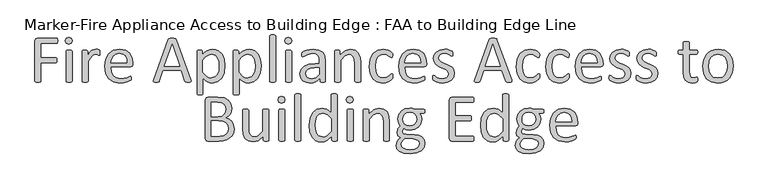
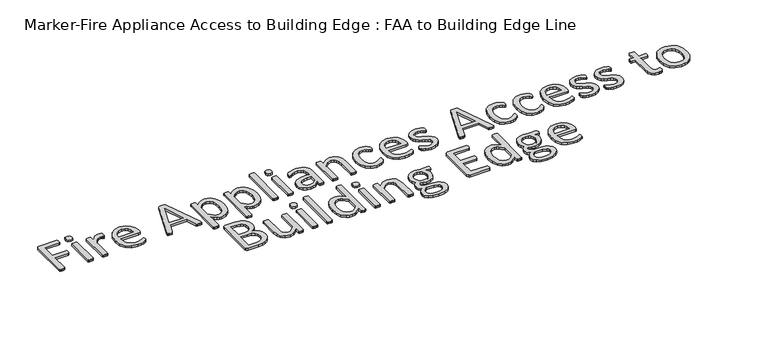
"""IFC4 building model written with IfcOpenShell, lengths in millimetres: proxy geometry, Marker-Fire Appliance Access to Building Edge : FAA to Building Edge Line."""

from ifc_helpers import new_model, si_unit, origin, origin_with_axes, place, context, project, spatial, polyline, outline, extrude, source, transform, mapped, element, save


def marker_fire_appliance_access_to_building_edge_faa_to_9c28d8f7(model_context):
    return source(origin(), model_context, "Body", "SweptSolid", [
        extrude(outline(polyline([(2879.0974459, 236.2082635), (2878.795871, 230.9910177), (2877.7403589, 227.4324338), (2875.9912244, 225.4420395), (2873.9103576, 224.8087322), (2801.8942706, 224.8087322), (2801.8942706, 159.1860331), (2869.9295689, 159.1860331), (2872.0104357, 158.6130408), (2873.7595701, 156.7432764), (2874.8150823, 153.275165), (2875.1166572, 147.6658718), (2874.8150823, 142.4184685), (2873.7595701, 138.8598846), (2872.0104357, 136.7488603), (2869.9295689, 136.0250805), (2801.8942706, 136.0250805), (2801.8942706, 52.1872573), (2801.2609633, 50.1063905), (2799.0594665, 48.5683585), (2794.9882053, 47.6334763), (2788.3837149, 47.2414289), (2781.930012, 47.6334763), (2777.7079633, 48.5683585), (2775.5064665, 50.1063905), (2774.8731592, 52.1872573), (2774.8731592, 237.1733032), (2778.0095382, 245.587243), (2784.7045011, 247.9696848), (2873.9103576, 247.9696848), (2875.9309094, 247.3363775), (2877.7102014, 245.2856681), (2878.795871, 241.5461393), (2879.0974459, 236.2082635)])), origin_with_axes(), (0.0, 0.0, 1.0), 10.0),
        extrude(outline(polyline([(2944.720145, 236.5701534), (2941.402821, 224.2357399), (2929.098565, 220.9485734), (2917.0958838, 224.1452674), (2913.8388748, 236.2082635), (2917.1561988, 248.5426771), (2929.4604548, 251.8298435), (2941.463136, 248.6331496), (2944.720145, 236.5701534)])), origin_with_axes(), (0.0, 0.0, 1.0), 10.0),
        extrude(outline(polyline([(2944.720145, 51.9459974), (2944.0566802, 49.8952881), (2941.9154984, 48.4477285), (2937.8442372, 47.5430038), (2931.1492743, 47.2414289), (2924.5749414, 47.5430038), (2920.4132077, 48.4477285), (2918.2720259, 49.8952881), (2917.6990336, 51.9459974), (2917.6990336, 189.2228935), (2918.2720259, 191.1831304), (2920.4132077, 192.7211624), (2924.5749414, 193.6258871), (2931.1492743, 193.927462), (2937.8442372, 193.6258871), (2941.9154984, 192.7211624), (2944.0566802, 191.1831304), (2944.720145, 189.2228935), (2944.720145, 51.9459974)])), origin_with_axes(), (0.0, 0.0, 1.0), 10.0),
        extrude(outline(polyline([(3072.1053843, 182.3469857), (3071.9545968, 176.8583225), (3071.351447, 173.2997386), (3070.2356199, 171.2791868), (3068.3658555, 170.5855645), (3065.4405789, 171.2791868), (3061.5502626, 172.6664313), (3056.6949067, 173.9933609), (3050.874511, 174.6266682), (3043.5160834, 172.9680062), (3035.9465533, 167.539658), (3027.6532435, 157.5273712), (3018.0631615, 142.2375235), (3018.0631615, 51.9459974), (3017.3996967, 49.8952881), (3015.2585149, 48.4477285), (3011.1872537, 47.5430038), (3004.4922909, 47.2414289), (2997.917958, 47.5430038), (2993.7562243, 48.4477285), (2991.6150425, 49.8952881), (2991.0420502, 51.9459974), (2991.0420502, 189.2228935), (2991.52457, 191.2736029), (2993.4848069, 192.7814774), (2997.2544932, 193.6862021), (3003.3463062, 193.927462), (3009.3174893, 193.6862021), (3012.9967031, 192.7814774), (3014.896625, 191.2736029), (3015.4696174, 189.2228935), (3015.4696174, 169.1983199), (3025.904109, 183.4929704), (3035.1624586, 192.2084851), (3043.7875008, 196.5813212), (3052.4427005, 197.7876208), (3056.8456941, 197.5765184), (3062.0327825, 196.7622661), (3066.9182959, 195.4051791), (3069.9943599, 193.927462), (3071.2006596, 192.5402175), (3071.7434944, 190.8212405), (3072.0450693, 187.775334), (3072.1053843, 182.3469857)])), origin_with_axes(), (0.0, 0.0, 1.0), 10.0),
        extrude(outline(polyline([(3222.6515762, 127.7619282), (3219.6659846, 119.2575159), (3212.8202343, 116.7242867), (3122.2874482, 116.7242867), (3124.54926, 94.4077438), (3132.0584751, 77.3989193), (3145.7499757, 66.4819078), (3166.3776991, 62.682064), (3183.5071537, 64.4613559), (3196.5351895, 68.4723021), (3205.5522791, 72.4832483), (3210.8901549, 74.2625403), (3212.7599193, 73.7498629), (3214.0566914, 72.2419884), (3214.7201562, 69.4373418), (3214.9312586, 65.0343482), (3214.7804712, 61.8074967), (3214.3884238, 59.36474), (3213.6344865, 57.4045032), (3212.2773995, 55.7458412), (3207.3617285, 52.8205646), (3196.7764494, 48.6588309), (3181.6977042, 45.0097746), (3163.4222651, 43.3812701), (3133.958397, 48.2064686), (3112.6973663, 62.561434), (3099.6693305, 86.4763239), (3095.2663369, 119.8606657), (3099.8804329, 152.4307553), (3113.1798861, 176.9186375), (3134.1694994, 192.38943), (3161.7334456, 197.7876208), (3189.4783368, 192.570375), (3208.3267682, 178.5169845), (3219.1834648, 157.7987886), (3222.6515762, 132.4061817), (3222.6515762, 127.7619282)]), holes=[polyline([(3195.6304648, 136.0250805), (3193.6777673, 153.7350668), (3186.9752651, 167.1777681), (3175.6888243, 175.6595622), (3159.9843112, 178.486827), (3143.9103688, 174.9885581), (3132.36005, 165.6698936), (3125.1524098, 152.1291804), (3122.2874482, 136.0250805), (3195.6304648, 136.0250805)])]), origin_with_axes(), (0.0, 0.0, 1.0), 10.0),
        extrude(outline(polyline([(3487.7962314, 57.6759206), (3489.0930035, 52.1872573), (3487.9470189, 48.9604059), (3483.8456002, 47.5430038), (3476.2157551, 47.2414289), (3468.5255951, 47.4826888), (3464.213074, 48.2667836), (3462.0718922, 49.7445006), (3460.7148051, 52.0666274), (3443.5853506, 101.2836516), (3360.4109921, 101.2836516), (3344.0656324, 52.7300921), (3342.7990178, 50.3174929), (3340.5673635, 48.5683585), (3336.4056298, 47.5430038), (3329.3487771, 47.2414289), (3322.0205069, 47.6334763), (3318.0095607, 49.1111933), (3316.923891, 52.3078873), (3318.2508206, 57.7965505), (3385.3210792, 242.4810215), (3386.9194262, 245.2253531), (3389.8748602, 246.8840151), (3394.8206887, 247.7284248), (3402.4505337, 247.9696848), (3410.6533711, 247.7284248), (3415.9309319, 246.8840151), (3419.0069959, 245.1650382), (3420.7259729, 242.3603916), (3487.7962314, 57.6759206)]), holes=[polyline([(3401.7267539, 220.9485734), (3367.105955, 120.5844455), (3436.6491278, 120.5844455), (3401.7267539, 220.9485734)])]), origin_with_axes(), (0.0, 0.0, 1.0), 10.0),
        extrude(outline(polyline([(3643.4088817, 122.6954698), (3639.548723, 89.6127029), (3628.2095066, 64.7026158), (3609.66265, 48.9302484), (3584.3605156, 43.3812701), (3573.1720867, 44.6177272), (3563.0994849, 48.538201), (3553.328458, 55.2633213), (3543.0447538, 64.7930883), (3543.0447538, -5.6548092), (3542.381289, -7.856306), (3540.2401072, -9.4244955), (3536.168846, -10.3593777), (3529.4738831, -10.6609526), (3522.8995502, -10.3593777), (3518.7378166, -9.4244955), (3516.5966347, -7.856306), (3516.0236424, -5.7151242), (3516.0236424, 189.1022636), (3516.5061623, 191.3640754), (3518.4663991, 192.8417924), (3522.2360854, 193.6862021), (3527.8453787, 193.927462), (3533.4848294, 193.7163596), (3537.1640432, 192.9322649), (3539.2147525, 191.5450203), (3539.7877448, 189.4038385), (3539.7877448, 171.8521791), (3551.7602685, 183.2517104), (3563.3709023, 191.3037604), (3575.3735835, 196.1591163), (3588.3413043, 197.7876208), (3602.0931199, 196.3023644), (3613.6735962, 191.8465952), (3630.7427358, 175.6218654), (3640.3629752, 151.676818), (3643.4088817, 122.6954698)]), holes=[polyline([(3616.3877704, 119.7400357), (3614.8195809, 140.1868142), (3609.4213901, 157.7384736), (3599.1376859, 170.0125722), (3583.093901, 174.6266682), (3573.624449, 173.2092662), (3564.1851545, 168.6856426), (3554.1427103, 160.5431202), (3543.0447538, 148.1483917), (3543.0447538, 92.2364045), (3562.3757051, 73.1467131), (3571.7471453, 68.1933453), (3581.5860265, 66.5422227), (3597.5694964, 71.1563188), (3608.3658779, 83.4304173), (3614.4275335, 100.5900294), (3616.3877704, 119.7400357)])]), origin_with_axes(), (0.0, 0.0, 1.0), 10.0),
        extrude(outline(polyline([(3809.3957087, 122.6954698), (3805.5355499, 89.6127029), (3794.1963336, 64.7026158), (3775.649477, 48.9302484), (3750.3473426, 43.3812701), (3739.1589136, 44.6177272), (3729.0863119, 48.538201), (3719.315285, 55.2633213), (3709.0315808, 64.7930883), (3709.0315808, -5.6548092), (3708.368116, -7.856306), (3706.2269342, -9.4244955), (3702.155673, -10.3593777), (3695.4607101, -10.6609526), (3688.8863772, -10.3593777), (3684.7246435, -9.4244955), (3682.5834617, -7.856306), (3682.0104694, -5.7151242), (3682.0104694, 189.1022636), (3682.4929892, 191.3640754), (3684.4532261, 192.8417924), (3688.2229124, 193.6862021), (3693.8322056, 193.927462), (3699.4716563, 193.7163596), (3703.1508701, 192.9322649), (3705.2015795, 191.5450203), (3705.7745718, 189.4038385), (3705.7745718, 171.8521791), (3717.7470955, 183.2517104), (3729.3577293, 191.3037604), (3741.3604104, 196.1591163), (3754.3281313, 197.7876208), (3768.0799469, 196.3023644), (3779.6604232, 191.8465952), (3796.7295627, 175.6218654), (3806.3498022, 151.676818), (3809.3957087, 122.6954698)]), holes=[polyline([(3782.3745973, 119.7400357), (3780.8064078, 140.1868142), (3775.4082171, 157.7384736), (3765.1245128, 170.0125722), (3749.080728, 174.6266682), (3739.611276, 173.2092662), (3730.1719815, 168.6856426), (3720.1295372, 160.5431202), (3709.0315808, 148.1483917), (3709.0315808, 92.2364045), (3728.3625321, 73.1467131), (3737.7339722, 68.1933453), (3747.5728535, 66.5422227), (3763.5563233, 71.1563188), (3774.3527049, 83.4304173), (3780.4143605, 100.5900294), (3782.3745973, 119.7400357)])]), origin_with_axes(), (0.0, 0.0, 1.0), 10.0),
        extrude(outline(polyline([(3875.0184077, 52.0063124), (3874.3549429, 49.955603), (3872.2137611, 48.477886), (3868.1424999, 47.5430038), (3861.4475371, 47.2414289), (3854.8732042, 47.5430038), (3850.7114705, 48.477886), (3848.5702887, 49.955603), (3847.9972964, 52.0063124), (3847.9972964, 258.4644914), (3848.5702887, 260.6358307), (3850.7114705, 262.1738627), (3854.8732042, 263.1087449), (3861.4475371, 263.4103198), (3868.1424999, 263.1087449), (3872.2137611, 262.1738627), (3874.3549429, 260.6358307), (3875.0184077, 258.4644914), (3875.0184077, 52.0063124)])), origin_with_axes(), (0.0, 0.0, 1.0), 10.0),
        extrude(outline(polyline([(3948.3614243, 236.5701534), (3945.0441004, 224.2357399), (3932.7398443, 220.9485734), (3920.7371631, 224.1452674), (3917.4801542, 236.2082635), (3920.7974781, 248.5426771), (3933.1017342, 251.8298435), (3945.1044153, 248.6331496), (3948.3614243, 236.5701534)])), origin_with_axes(), (0.0, 0.0, 1.0), 10.0),
        extrude(outline(polyline([(3948.3614243, 51.9459974), (3947.6979595, 49.8952881), (3945.5567777, 48.4477285), (3941.4855165, 47.5430038), (3934.7905536, 47.2414289), (3928.2162207, 47.5430038), (3924.0544871, 48.4477285), (3921.9133052, 49.8952881), (3921.3403129, 51.9459974), (3921.3403129, 189.2228935), (3921.9133052, 191.1831304), (3924.0544871, 192.7211624), (3928.2162207, 193.6258871), (3934.7905536, 193.927462), (3941.4855165, 193.6258871), (3945.5567777, 192.7211624), (3947.6979595, 191.1831304), (3948.3614243, 189.2228935), (3948.3614243, 51.9459974)])), origin_with_axes(), (0.0, 0.0, 1.0), 10.0),
        extrude(outline(polyline([(4102.767775, 51.8856824), (4101.4408454, 49.0810358), (4097.8219465, 47.6937913), (4091.0666687, 47.2414289), (4084.2209184, 47.6937913), (4080.5115471, 49.0810358), (4079.3655624, 51.8856824), (4079.3655624, 65.758128), (4059.0394139, 49.7143431), (4047.4890951, 44.9645384), (4035.2753115, 43.3812701), (4015.3412104, 46.2462317), (4000.1719927, 54.5395416), (3990.4311234, 67.8691523), (3986.963012, 85.8430166), (3991.7580529, 106.289795), (4005.5098685, 120.7050754), (4027.434364, 129.2999602), (4056.6268147, 132.1649218), (4075.7466636, 132.1649218), (4075.7466636, 143.6850831), (4074.0578441, 158.7638283), (4068.6294959, 169.6808398), (4058.9489415, 176.2551727), (4044.3225586, 178.486827), (4027.5851515, 176.0742277), (4014.6174306, 170.7665094), (4005.2987661, 165.4587911), (3999.7497879, 163.0461919), (3997.5784486, 163.6794992), (3995.9801016, 165.6095786), (3994.9849044, 168.9269025), (3994.6833295, 173.3600536), (3995.2261643, 179.6931266), (3997.8800235, 184.1262777), (4005.1178212, 188.6499012), (4016.9395574, 193.1132098), (4031.5659402, 196.4606912), (4047.5795676, 197.7876208), (4073.2134344, 194.3798244), (4090.3127314, 184.4278526), (4099.8123409, 168.1729653), (4102.767775, 145.4945325), (4102.767775, 51.8856824)]), holes=[polyline([(4075.7466636, 112.8641279), (4054.2745305, 112.8641279), (4036.3609812, 111.084836), (4023.7249927, 105.8374327), (4016.3364076, 97.5139653), (4013.9841233, 86.3255364), (4015.6729428, 76.584667), (4020.7394012, 69.0754519), (4028.8517661, 64.280411), (4039.6783051, 62.682064), (4058.0140593, 67.7786798), (4075.7466636, 83.3701024), (4075.7466636, 112.8641279)])]), origin_with_axes(), (0.0, 0.0, 1.0), 10.0),
        extrude(outline(polyline([(4264.8944432, 52.0063124), (4264.2309784, 49.955603), (4262.0897966, 48.477886), (4258.0185354, 47.5430038), (4251.4442025, 47.2414289), (4244.7492396, 47.5430038), (4240.6779784, 48.4477285), (4238.5367966, 49.8952881), (4237.8733318, 52.0063124), (4237.8733318, 132.5871266), (4236.0940399, 151.5260306), (4230.937109, 163.9207591), (4222.1612793, 171.8823366), (4209.7062358, 174.6266682), (4191.4006391, 167.9015478), (4172.2506328, 148.1483917), (4172.2506328, 52.0063124), (4171.587168, 49.8952881), (4169.4459862, 48.4477285), (4165.374725, 47.5430038), (4158.6797621, 47.2414289), (4152.1054292, 47.5430038), (4147.9436955, 48.4477285), (4145.8025137, 49.8952881), (4145.2295214, 51.9459974), (4145.2295214, 189.2228935), (4145.7120412, 191.2736029), (4147.6722781, 192.7814774), (4151.4419644, 193.6862021), (4157.5337775, 193.927462), (4163.5049606, 193.6862021), (4167.1841744, 192.7814774), (4169.0840963, 191.2736029), (4169.6570886, 189.2228935), (4169.6570886, 171.0680843), (4192.7275687, 191.3640754), (4215.9186788, 197.7876208), (4238.9590015, 193.0830523), (4254.0980616, 180.5073788), (4262.3913715, 162.0811522), (4264.8944432, 136.6885453), (4264.8944432, 52.0063124)])), origin_with_axes(), (0.0, 0.0, 1.0), 10.0),
        extrude(outline(polyline([(4411.5804763, 74.98632), (4411.4296888, 70.7642714), (4410.886854, 67.7485223), (4409.9821293, 65.3057656), (4407.5695301, 61.6868668), (4401.0856697, 55.8061562), (4390.8019654, 49.5635557), (4378.4072369, 45.1002471), (4364.5347913, 43.3812701), (4338.3580897, 48.3874135), (4319.2683983, 63.0137964), (4307.5371345, 86.5969538), (4303.4960308, 118.835311), (4308.4418593, 154.5719371), (4321.9825724, 179.0296618), (4342.2182485, 193.1735248), (4367.4299104, 197.7876208), (4380.1563713, 196.4305337), (4391.4955877, 192.8719499), (4400.7237798, 187.8054915), (4406.5743329, 182.8898206), (4409.0774046, 179.6629691), (4410.2233892, 177.0995824), (4410.826539, 173.9330459), (4410.9773265, 169.4998948), (4409.6202394, 161.4780024), (4406.333073, 159.1860331), (4401.1158271, 161.5986324), (4393.666927, 166.9063507), (4382.719758, 172.214069), (4367.6108553, 174.6266682), (4351.740476, 171.1283993), (4340.0770666, 160.6335927), (4332.9071233, 143.4739807), (4330.5171422, 119.9812957), (4332.9900564, 96.6393981), (4340.2881691, 79.8718335), (4352.1400628, 69.8293892), (4368.2140052, 66.5422227), (4383.2625928, 69.5881293), (4394.4811793, 76.2830921), (4402.4729142, 82.8875825), (4407.5393726, 85.8430166), (4409.3186645, 85.2700243), (4410.6154366, 83.3399449), (4411.3693739, 79.901991), (4411.5804763, 74.98632)])), origin_with_axes(), (0.0, 0.0, 1.0), 10.0),
        extrude(outline(polyline([(4565.986827, 127.7619282), (4563.0012354, 119.2575159), (4556.1554851, 116.7242867), (4465.622699, 116.7242867), (4467.8845108, 94.4077438), (4475.3937259, 77.3989193), (4489.0852265, 66.4819078), (4509.7129499, 62.682064), (4526.8424045, 64.4613559), (4539.8704403, 68.4723021), (4548.8875299, 72.4832483), (4554.2254057, 74.2625403), (4556.0951701, 73.7498629), (4557.3919422, 72.2419884), (4558.055407, 69.4373418), (4558.2665094, 65.0343482), (4558.115722, 61.8074967), (4557.7236746, 59.36474), (4556.9697373, 57.4045032), (4555.6126503, 55.7458412), (4550.6969794, 52.8205646), (4540.1117002, 48.6588309), (4525.0329551, 45.0097746), (4506.7575159, 43.3812701), (4477.2936478, 48.2064686), (4456.0326171, 62.561434), (4443.0045813, 86.4763239), (4438.6015877, 119.8606657), (4443.2156837, 152.4307553), (4456.5151369, 176.9186375), (4477.5047502, 192.38943), (4505.0686964, 197.7876208), (4532.8135876, 192.570375), (4551.662019, 178.5169845), (4562.5187156, 157.7987886), (4565.986827, 132.4061817), (4565.986827, 127.7619282)]), holes=[polyline([(4538.9657156, 136.0250805), (4537.0130181, 153.7350668), (4530.3105159, 167.1777681), (4519.0240751, 175.6595622), (4503.319562, 178.486827), (4487.2456196, 174.9885581), (4475.6953008, 165.6698936), (4468.4876606, 152.1291804), (4465.622699, 136.0250805), (4538.9657156, 136.0250805)])]), origin_with_axes(), (0.0, 0.0, 1.0), 10.0),
        extrude(outline(polyline([(4693.3720663, 88.4968757), (4689.36112, 69.2865544), (4677.9314312, 55.0823764), (4660.2892993, 46.3367042), (4637.761654, 43.3812701), (4623.3162162, 44.7685147), (4611.0421176, 48.2969411), (4601.844083, 52.7602496), (4596.3252623, 56.9521408), (4593.7920331, 61.3852919), (4593.0079383, 68.4119871), (4593.3095132, 72.9657682), (4594.093608, 75.9513597), (4595.4205376, 77.6100217), (4597.3506169, 78.122699), (4602.3567603, 75.7100998), (4610.5595977, 70.4023815), (4622.1099165, 65.0946632), (4637.3997642, 62.682064), (4649.1611854, 64.159781), (4658.298905, 68.5326171), (4664.2700881, 75.8910447), (4666.3509549, 86.4461664), (4663.3653634, 96.4282957), (4655.4339434, 103.6359359), (4644.3661444, 109.1849141), (4631.6999985, 114.2513725), (4618.94338, 120.2527131), (4607.7851086, 128.4555505), (4599.8536886, 140.0058693), (4596.8680971, 156.1099691), (4600.0647911, 171.9426516), (4609.654873, 185.2119473), (4625.6383429, 194.3496669), (4648.0755157, 197.7876208), (4659.2941022, 196.7622661), (4669.4270189, 194.168722), (4677.1473365, 190.791083), (4681.9725349, 187.5943891), (4684.1438742, 185.3024198), (4684.927969, 183.3120254), (4685.4104888, 180.5676938), (4685.6517487, 176.5567476), (4685.4104888, 172.1839115), (4684.6263941, 169.138005), (4683.269307, 167.419028), (4681.4900151, 166.9063507), (4677.3282814, 168.7459576), (4670.3015861, 172.6965888), (4660.1686694, 176.6472201), (4646.8692161, 178.486827), (4635.0474799, 176.948795), (4626.6636976, 172.5759589), (4621.7178692, 165.880996), (4620.0290497, 157.4972137), (4623.2257437, 147.2738244), (4631.5793685, 140.0058693), (4643.3106323, 134.3965761), (4656.700558, 129.2698027), (4670.1809562, 123.3287771), (4681.9725349, 115.3671996), (4690.2356873, 104.1184557), (4693.3720663, 88.4968757)])), origin_with_axes(), (0.0, 0.0, 1.0), 10.0),
        extrude(outline(polyline([(4954.6565628, 57.6759206), (4955.9533349, 52.1872573), (4954.8073502, 48.9604059), (4950.7059315, 47.5430038), (4943.0760865, 47.2414289), (4935.3859264, 47.4826888), (4931.0734053, 48.2667836), (4928.9322235, 49.7445006), (4927.5751364, 52.0666274), (4910.4456819, 101.2836516), (4827.2713235, 101.2836516), (4810.9259637, 52.7300921), (4809.6593491, 50.3174929), (4807.4276948, 48.5683585), (4803.2659612, 47.5430038), (4796.2091084, 47.2414289), (4788.8808383, 47.6334763), (4784.869892, 49.1111933), (4783.7842224, 52.3078873), (4785.111152, 57.7965505), (4852.1814105, 242.4810215), (4853.7797575, 245.2253531), (4856.7351916, 246.8840151), (4861.68102, 247.7284248), (4869.3108651, 247.9696848), (4877.5137024, 247.7284248), (4882.7912632, 246.8840151), (4885.8673273, 245.1650382), (4887.5863042, 242.3603916), (4954.6565628, 57.6759206)]), holes=[polyline([(4868.5870853, 220.9485734), (4833.9662863, 120.5844455), (4903.5094591, 120.5844455), (4868.5870853, 220.9485734)])]), origin_with_axes(), (0.0, 0.0, 1.0), 10.0),
        extrude(outline(polyline([(5083.2481017, 74.98632), (5083.0973143, 70.7642714), (5082.5544794, 67.7485223), (5081.6497547, 65.3057656), (5079.2371555, 61.6868668), (5072.7532951, 55.8061562), (5062.4695908, 49.5635557), (5050.0748623, 45.1002471), (5036.2024167, 43.3812701), (5010.0257151, 48.3874135), (4990.9360237, 63.0137964), (4979.2047599, 86.5969538), (4975.1636562, 118.835311), (4980.1094847, 154.5719371), (4993.6501978, 179.0296618), (5013.8858739, 193.1735248), (5039.0975358, 197.7876208), (5051.8239967, 196.4305337), (5063.1632131, 192.8719499), (5072.3914052, 187.8054915), (5078.2419583, 182.8898206), (5080.74503, 179.6629691), (5081.8910146, 177.0995824), (5082.4941644, 173.9330459), (5082.6449519, 169.4998948), (5081.2878648, 161.4780024), (5078.0006984, 159.1860331), (5072.7834525, 161.5986324), (5065.3345524, 166.9063507), (5054.3873834, 172.214069), (5039.2784808, 174.6266682), (5023.4081014, 171.1283993), (5011.744692, 160.6335927), (5004.5747487, 143.4739807), (5002.1847676, 119.9812957), (5004.6576818, 96.6393981), (5011.9557945, 79.8718335), (5023.8076882, 69.8293892), (5039.8816306, 66.5422227), (5054.9302183, 69.5881293), (5066.1488047, 76.2830921), (5074.1405396, 82.8875825), (5079.206998, 85.8430166), (5080.9862899, 85.2700243), (5082.283062, 83.3399449), (5083.0369993, 79.901991), (5083.2481017, 74.98632)])), origin_with_axes(), (0.0, 0.0, 1.0), 10.0),
        extrude(outline(polyline([(5623.670329, 88.4968757), (5619.6593828, 69.2865544), (5608.229694, 55.0823764), (5590.5875621, 46.3367042), (5568.0599168, 43.3812701), (5553.6144789, 44.7685147), (5541.3403803, 48.2969411), (5532.1423458, 52.7602496), (5526.623525, 56.9521408), (5524.0902959, 61.3852919), (5523.3062011, 68.4119871), (5523.607776, 72.9657682), (5524.3918708, 75.9513597), (5525.7188003, 77.6100217), (5527.6488797, 78.122699), (5532.6550231, 75.7100998), (5540.8578605, 70.4023815), (5552.4081793, 65.0946632), (5567.6980269, 62.682064), (5579.4594482, 64.159781), (5588.5971677, 68.5326171), (5594.5683508, 75.8910447), (5596.6492177, 86.4461664), (5593.6636261, 96.4282957), (5585.7322062, 103.6359359), (5574.6644072, 109.1849141), (5561.9982612, 114.2513725), (5549.2416428, 120.2527131), (5538.0833714, 128.4555505), (5530.1519514, 140.0058693), (5527.1663599, 156.1099691), (5530.3630538, 171.9426516), (5539.9531358, 185.2119473), (5555.9366057, 194.3496669), (5578.3737785, 197.7876208), (5589.5923649, 196.7622661), (5599.7252817, 194.168722), (5607.4455992, 190.791083), (5612.2707977, 187.5943891), (5614.442137, 185.3024198), (5615.2262317, 183.3120254), (5615.7087516, 180.5676938), (5615.9500115, 176.5567476), (5615.7087516, 172.1839115), (5614.9246568, 169.138005), (5613.5675698, 167.419028), (5611.7882778, 166.9063507), (5607.6265442, 168.7459576), (5600.5998489, 172.6965888), (5590.4669321, 176.6472201), (5577.1674789, 178.486827), (5565.3457427, 176.948795), (5556.9619604, 172.5759589), (5552.0161319, 165.880996), (5550.3273125, 157.4972137), (5553.5240064, 147.2738244), (5561.8776313, 140.0058693), (5573.608895, 134.3965761), (5586.9988208, 129.2698027), (5600.4792189, 123.3287771), (5612.2707977, 115.3671996), (5620.53395, 104.1184557), (5623.670329, 88.4968757)])), origin_with_axes(), (0.0, 0.0, 1.0), 10.0),
        extrude(outline(polyline([(5805.0977911, 61.1138745), (5804.4946413, 53.5745019), (5802.6550344, 49.4730832), (5798.9758205, 47.000169), (5793.3966848, 45.1002471), (5786.7318794, 43.86379), (5779.7051842, 43.3812701), (5761.3392726, 46.3065467), (5748.8239141, 55.1426914), (5741.7067463, 70.1309641), (5739.475092, 91.5729397), (5739.475092, 174.6266682), (5721.1393379, 174.6266682), (5717.6109115, 176.88848), (5716.3141394, 184.2167501), (5716.6760293, 188.7102162), (5717.6109115, 191.7561227), (5719.1489435, 193.4449422), (5721.2599679, 193.927462), (5739.475092, 193.927462), (5739.475092, 227.5229063), (5740.0480844, 229.5434582), (5742.1892662, 231.2021201), (5746.3509998, 232.2274748), (5752.9253327, 232.5290497), (5759.6202956, 232.2274748), (5763.6915568, 231.2021201), (5765.8327386, 229.5434582), (5766.4962034, 227.5229063), (5766.4962034, 193.927462), (5800.2725926, 193.927462), (5802.2931445, 193.4449422), (5803.8311765, 191.7561227), (5804.7962162, 188.7102162), (5805.0977911, 184.2167501), (5803.7708615, 176.88848), (5800.2725926, 174.6266682), (5766.4962034, 174.6266682), (5766.4962034, 95.9759333), (5770.5071496, 73.9911229), (5776.1089035, 68.4044478), (5784.8922725, 66.5422227), (5790.8936131, 67.235845), (5795.5680241, 68.6834045), (5799.0964505, 70.1611216), (5801.7201522, 70.8849013), (5804.1327514, 69.0151369), (5804.7962162, 65.9993879), (5805.0977911, 61.1138745)])), origin_with_axes(), (0.0, 0.0, 1.0), 10.0),
        extrude(outline(polyline([(5967.2244593, 122.09232), (5962.7611507, 90.4571126), (5949.4013825, 65.5470256), (5939.3890957, 56.2359004), (5927.1451546, 49.2318233), (5912.7223348, 44.8439084), (5896.173412, 43.3812701), (5866.3174965, 48.538201), (5845.0866233, 63.5264737), (5832.4204773, 87.4112061), (5828.2587437, 119.2575159), (5832.6617373, 150.8927233), (5845.931033, 175.7726528), (5855.905623, 185.0460811), (5868.0967884, 191.9973827), (5882.5045295, 196.3400613), (5899.128846, 197.7876208), (5929.014919, 192.6306899), (5950.2457922, 177.6424172), (5962.9722531, 153.7576849), (5967.2244593, 122.09232)]), holes=[polyline([(5940.2033479, 120.2828706), (5938.1224811, 141.2423264), (5931.2767308, 158.5527258), (5918.3994824, 170.3141471), (5898.1034914, 174.6266682), (5878.832855, 170.676037), (5865.5635593, 159.5177655), (5857.8130842, 142.448626), (5855.279855, 120.8860204), (5857.3607219, 99.8059346), (5864.2667872, 82.5558501), (5877.234508, 70.8547439), (5897.5003415, 66.5422227), (5916.7106629, 70.492854), (5930.0704311, 81.5606529), (5937.7605912, 98.5694775), (5940.2033479, 120.2828706)])]), origin_with_axes(), (0.0, 0.0, 1.0), 10.0),
        extrude(outline(polyline([(5218.3536585, 74.98632), (5218.2028711, 70.7642714), (5217.6600363, 67.7485223), (5216.7553115, 65.3057656), (5214.3427123, 61.6868668), (5207.8588519, 55.8061562), (5197.5751477, 49.5635557), (5185.1804191, 45.1002471), (5171.3079736, 43.3812701), (5145.1312719, 48.3874135), (5126.0415805, 63.0137964), (5114.3103168, 86.5969538), (5110.2692131, 118.835311), (5115.2150415, 154.5719371), (5128.7557547, 179.0296618), (5148.9914307, 193.1735248), (5174.2030926, 197.7876208), (5186.9295536, 196.4305337), (5198.26877, 192.8719499), (5207.496962, 187.8054915), (5213.3475151, 182.8898206), (5215.8505868, 179.6629691), (5216.9965715, 177.0995824), (5217.5997213, 173.9330459), (5217.7505087, 169.4998948), (5216.3934217, 161.4780024), (5213.1062552, 159.1860331), (5207.8890094, 161.5986324), (5200.4401093, 166.9063507), (5189.4929403, 172.214069), (5174.3840376, 174.6266682), (5158.5136583, 171.1283993), (5146.8502489, 160.6335927), (5139.6803055, 143.4739807), (5137.2903244, 119.9812957), (5139.7632386, 96.6393981), (5147.0613513, 79.8718335), (5158.913245, 69.8293892), (5174.9871874, 66.5422227), (5190.0357751, 69.5881293), (5201.2543615, 76.2830921), (5209.2460964, 82.8875825), (5214.3125548, 85.8430166), (5216.0918468, 85.2700243), (5217.3886188, 83.3399449), (5218.1425561, 79.901991), (5218.3536585, 74.98632)])), origin_with_axes(), (0.0, 0.0, 1.0), 10.0),
        extrude(outline(polyline([(3990.8231707, -217.4765454), (3990.1597059, -219.5272548), (3988.0185241, -221.0049718), (3983.9472629, -221.939854), (3977.2523001, -222.2414289), (3970.6779672, -221.939854), (3966.5162335, -221.0049718), (3964.3750517, -219.5272548), (3963.8020594, -217.4765454), (3963.8020594, -11.0183664), (3964.3750517, -8.8470271), (3966.5162335, -7.3089951), (3970.6779672, -6.3741129), (3977.2523001, -6.072538), (3983.9472629, -6.3741129), (3988.0185241, -7.3089951), (3990.1597059, -8.8470271), (3990.8231707, -11.0183664), (3990.8231707, -217.4765454)])), origin_with_axes(), (0.0, 0.0, 1.0), 10.0),
        extrude(outline(polyline([(4558.2665094, -85.2661077), (4556.7887924, -92.5943778), (4553.0191061, -94.8561896), (4533.0548475, -94.8561896), (4540.6545351, -107.3413906), (4542.8258744, -121.5154111), (4538.9657156, -142.9875442), (4527.8979166, -158.7900692), (4510.7684621, -168.6515685), (4488.7836516, -172.0593649), (4472.5890793, -169.7975532), (4460.7371856, -164.0977875), (4455.9119871, -170.400703), (4454.0422227, -178.5733829), (4459.1689961, -187.5), (4472.8001817, -191.3601588), (4509.8335799, -192.9283483), (4529.2550037, -195.8536248), (4544.5448513, -203.302525), (4554.6476106, -215.1544187), (4558.2665094, -231.469621), (4554.2254057, -250.1371075), (4541.8306772, -265.6983725), (4520.539489, -276.2836516), (4489.9899512, -280.1438104), (4461.068918, -277.2486913), (4441.5268642, -269.3474288), (4430.4590653, -257.3749052), (4427.0211114, -242.3263175), (4428.2575685, -232.2838732), (4432.0574123, -223.0556811), (4438.3904852, -214.7020563), (4447.1059999, -206.8007938), (4434.8620589, -196.8789795), (4430.8812701, -183.9414161), (4434.9826888, -166.7818041), (4445.1156056, -153.2410909), (4437.515918, -140.2733701), (4434.7414289, -122.7217107), (4438.7523751, -101.279735), (4449.9106466, -85.2359502), (4467.0401011, -75.1935059), (4488.7836516, -71.695237), (4500.6053879, -72.7205917), (4510.9192496, -75.5553958), (4553.0191061, -75.5553958), (4556.9395799, -77.9378375), (4558.2665094, -85.2661077)]), holes=[polyline([(4519.6649218, -121.696356), (4517.6292912, -108.8115683), (4511.5223994, -99.1083957), (4501.6609, -93.0241221), (4488.3614468, -90.9960308), (4474.9112061, -93.52926), (4465.3814391, -100.4654828), (4459.7419884, -110.6285571), (4457.9023815, -122.6613957), (4459.9380121, -135.2069117), (4466.0449039, -144.7366787), (4475.8159308, -150.753098), (4488.8439666, -152.7585711), (4502.5656247, -150.3158144), (4512.1858642, -143.530379), (4517.8253149, -133.5180922), (4519.6649218, -121.696356)]), polyline([(4531.2453981, -232.3140307), (4529.3756337, -223.8171578), (4523.7663405, -217.5067029), (4503.5608219, -211.9878822), (4466.8893136, -210.6609526), (4458.5960038, -218.5019001), (4453.4692304, -225.6190678), (4450.8756862, -232.2838732), (4450.182064, -239.0693085), (4452.7756081, -248.5010636), (4460.5562407, -255.3241958), (4472.9811267, -259.4633114), (4489.5074314, -260.8430166), (4509.2907451, -258.4605748), (4522.137836, -252.0973444), (4529.1343737, -243.0199398), (4531.2453981, -232.3140307)])]), origin_with_axes(), (0.0, 0.0, 1.0), 10.0),
        extrude(outline(polyline([(4782.1557179, -210.7212676), (4781.854143, -215.8480409), (4780.7684733, -219.4970973), (4778.9590239, -221.6081216), (4776.7273696, -222.2414289), (4680.1630855, -222.2414289), (4673.4078076, -219.8288297), (4670.2111137, -211.3847324), (4670.2111137, -32.3698696), (4673.4379651, -23.9257723), (4680.2837154, -21.513173), (4776.7876846, -21.513173), (4779.0796539, -22.1464803), (4780.7383159, -24.2575047), (4781.7636705, -27.906561), (4782.1557179, -33.3349093), (4781.7636705, -38.4315251), (4780.7383159, -42.0202665), (4779.0796539, -44.0408183), (4776.7876846, -44.6741256), (4697.232225, -44.6741256), (4697.232225, -106.4366659), (4765.2675233, -106.4366659), (4767.4991776, -107.1906032), (4769.248312, -109.27147), (4770.2736667, -112.9205263), (4770.5752416, -118.4393471), (4770.2736667, -123.5962779), (4769.248312, -127.0945468), (4767.4991776, -129.0246262), (4765.2675233, -129.5976185), (4697.232225, -129.5976185), (4697.232225, -199.0804763), (4776.7273696, -199.0804763), (4778.9891814, -199.7137836), (4780.7684733, -201.7343355), (4781.854143, -205.3230768), (4782.1557179, -210.7212676)])), origin_with_axes(), (0.0, 0.0, 1.0), 10.0),
        extrude(outline(polyline([(4940.4222273, -217.4162304), (4939.849235, -219.6177272), (4937.8889981, -221.0954443), (4934.2399418, -221.939854), (4928.7211211, -222.2414289), (4922.9911979, -221.939854), (4919.2516691, -221.1557592), (4917.1406448, -219.7986722), (4916.47718, -217.7781203), (4916.47718, -200.6486658), (4894.0701646, -219.3764673), (4881.9091567, -224.4203076), (4868.6474003, -226.1015877), (4854.6844822, -224.6012525), (4842.9532185, -220.1002471), (4825.7332915, -203.8755173), (4816.0828946, -179.80984), (4813.036988, -150.7078618), (4816.8368318, -117.9869847), (4828.0554182, -93.0768977), (4846.4514874, -77.2442152), (4871.8440942, -71.695237), (4893.7685897, -77.0934278), (4913.401116, -92.9261102), (4913.401116, -11.0786814), (4913.9741083, -8.967657), (4916.1756051, -7.3994675), (4920.3373388, -6.4645853), (4926.7307267, -6.072538), (4933.4256896, -6.4645853), (4937.4969508, -7.3994675), (4939.6984476, -8.9374996), (4940.4222273, -11.0183664), (4940.4222273, -217.4162304)]), holes=[polyline([(4913.401116, -120.4297414), (4894.0400072, -101.400365), (4884.4951615, -96.4922335), (4874.5582684, -94.8561896), (4858.5747985, -99.4401281), (4847.8990469, -111.5332818), (4841.9278638, -128.5421063), (4840.0580994, -147.8127427), (4841.6262889, -168.1992062), (4847.0847947, -185.8714955), (4857.3986564, -198.2662241), (4873.5329137, -202.9406351), (4883.0023657, -201.583548), (4892.3511877, -197.0900819), (4902.333317, -188.9475595), (4913.401116, -176.5829885), (4913.401116, -120.4297414)])]), origin_with_axes(), (0.0, 0.0, 1.0), 10.0),
        extrude(outline(polyline([(5372.7600092, 127.7619282), (5369.7744177, 119.2575159), (5362.9286673, 116.7242867), (5272.3958813, 116.7242867), (5274.657693, 94.4077438), (5282.1669081, 77.3989193), (5295.8584088, 66.4819078), (5316.4861322, 62.682064), (5333.6155867, 64.4613559), (5346.6436225, 68.4723021), (5355.6607122, 72.4832483), (5360.998588, 74.2625403), (5362.8683524, 73.7498629), (5364.1651244, 72.2419884), (5364.8285892, 69.4373418), (5365.0396917, 65.0343482), (5364.8889042, 61.8074967), (5364.4968568, 59.36474), (5363.7429196, 57.4045032), (5362.3858325, 55.7458412), (5357.4701616, 52.8205646), (5346.8848825, 48.6588309), (5331.8061373, 45.0097746), (5313.5306981, 43.3812701), (5284.06683, 48.2064686), (5262.8057993, 62.561434), (5249.7777635, 86.4763239), (5245.3747699, 119.8606657), (5249.9888659, 152.4307553), (5263.2883192, 176.9186375), (5284.2779325, 192.38943), (5311.8418787, 197.7876208), (5339.5867698, 192.570375), (5358.4352013, 178.5169845), (5369.2918978, 157.7987886), (5372.7600092, 132.4061817), (5372.7600092, 127.7619282)]), holes=[polyline([(5345.7388978, 136.0250805), (5343.7862003, 153.7350668), (5337.0836981, 167.1777681), (5325.7972573, 175.6595622), (5310.0927442, 178.486827), (5294.0188019, 174.9885581), (5282.4684831, 165.6698936), (5275.2608429, 152.1291804), (5272.3958813, 136.0250805), (5345.7388978, 136.0250805)])]), origin_with_axes(), (0.0, 0.0, 1.0), 10.0),
        extrude(outline(polyline([(5500.1452485, 88.4968757), (5496.1343023, 69.2865544), (5484.7046134, 55.0823764), (5467.0624816, 46.3367042), (5444.5348363, 43.3812701), (5430.0893984, 44.7685147), (5417.8152998, 48.2969411), (5408.6172652, 52.7602496), (5403.0984445, 56.9521408), (5400.5652153, 61.3852919), (5399.7811206, 68.4119871), (5400.0826955, 72.9657682), (5400.8667902, 75.9513597), (5402.1937198, 77.6100217), (5404.1237992, 78.122699), (5409.1299426, 75.7100998), (5417.33278, 70.4023815), (5428.8830988, 65.0946632), (5444.1729464, 62.682064), (5455.9343676, 64.159781), (5465.0720872, 68.5326171), (5471.0432703, 75.8910447), (5473.1241371, 86.4461664), (5470.1385456, 96.4282957), (5462.2071256, 103.6359359), (5451.1393267, 109.1849141), (5438.4731807, 114.2513725), (5425.7165623, 120.2527131), (5414.5582908, 128.4555505), (5406.6268709, 140.0058693), (5403.6412793, 156.1099691), (5406.8379733, 171.9426516), (5416.4280553, 185.2119473), (5432.4115251, 194.3496669), (5454.848698, 197.7876208), (5466.0672844, 196.7622661), (5476.2002012, 194.168722), (5483.9205187, 190.791083), (5488.7457171, 187.5943891), (5490.9170565, 185.3024198), (5491.7011512, 183.3120254), (5492.183671, 180.5676938), (5492.424931, 176.5567476), (5492.183671, 172.1839115), (5491.3995763, 169.138005), (5490.0424892, 167.419028), (5488.2631973, 166.9063507), (5484.1014636, 168.7459576), (5477.0747684, 172.6965888), (5466.9418516, 176.6472201), (5453.6423984, 178.486827), (5441.8206621, 176.948795), (5433.4368798, 172.5759589), (5428.4910514, 165.880996), (5426.8022319, 157.4972137), (5429.9989259, 147.2738244), (5438.3525507, 140.0058693), (5450.0838145, 134.3965761), (5463.4737402, 129.2698027), (5476.9541384, 123.3287771), (5488.7457171, 115.3671996), (5497.0088695, 104.1184557), (5500.1452485, 88.4968757)])), origin_with_axes(), (0.0, 0.0, 1.0), 10.0),
        extrude(outline(polyline([(3685.8706282, -165.485032), (3683.4881864, -182.6748015), (3676.7932236, -196.848822), (3666.4190469, -207.856306), (3652.7275463, -215.8178835), (3636.412344, -220.6430819), (3616.5084003, -222.2414289), (3564.456572, -222.2414289), (3557.7917666, -219.8288297), (3554.6252301, -211.3847324), (3554.6252301, -32.3698696), (3557.8219241, -23.9257723), (3564.5772019, -21.513173), (3610.1753273, -21.513173), (3639.6995104, -24.9812844), (3658.8495168, -35.0538862), (3670.3998356, -51.278616), (3674.2901519, -73.0221666), (3672.5711749, -86.8644547), (3667.534874, -99.0782383), (3659.1510917, -109.0905251), (3647.5706154, -116.3283227), (3662.5287306, -121.9074585), (3674.6520417, -132.2514777), (3682.8548791, -146.9381755), (3685.8706282, -165.485032)]), holes=[polyline([(3647.2690405, -76.6410654), (3645.2484886, -63.3114547), (3638.9154157, -53.2086954), (3627.6365143, -46.8756224), (3609.2102877, -44.6741256), (3581.6463415, -44.6741256), (3581.6463415, -110.2968247), (3611.9847768, -110.2968247), (3628.6920264, -107.552493), (3639.2169906, -100.1940654), (3645.3389611, -89.3976838), (3647.2690405, -76.6410654)]), polyline([(3658.8495168, -165.726292), (3656.0147127, -150.1650269), (3647.7214029, -138.8861255), (3634.0299022, -131.9499027), (3613.3117063, -129.5976185), (3581.6463415, -129.5976185), (3581.6463415, -199.0804763), (3620.0669842, -199.0804763), (3635.9298241, -196.9392945), (3647.8420328, -190.6062215), (3655.9242402, -180.1717298), (3658.8495168, -165.726292)])]), origin_with_axes(), (0.0, 0.0, 1.0), 10.0),
        extrude(outline(polyline([(3844.1371376, -217.5368604), (3843.5641453, -219.5875697), (3841.5435934, -221.0351293), (3837.7135922, -221.939854), (3831.9535115, -222.2414289), (3825.8013835, -221.939854), (3822.0618547, -221.0351293), (3820.1920902, -219.5875697), (3819.7095704, -217.5368604), (3819.7095704, -199.3820512), (3796.5787753, -219.7081997), (3773.4479802, -226.1015877), (3750.4076575, -221.4573342), (3735.2685974, -208.8816607), (3726.9752875, -190.3649616), (3724.4722158, -164.6406223), (3724.4722158, -80.3202792), (3725.0452081, -78.2695699), (3727.2467049, -76.7315379), (3731.4687536, -75.7966557), (3737.9827715, -75.5553958), (3744.4967894, -75.7966557), (3748.6283656, -76.7013804), (3750.8298624, -78.2092549), (3751.4933272, -80.3202792), (3751.4933272, -160.4185737), (3753.1821467, -179.749525), (3758.369235, -192.1442535), (3767.1752222, -200.105831), (3779.6001082, -202.9406351), (3788.7453672, -201.2442762), (3797.8453899, -196.1551997), (3817.1160262, -176.2210986), (3817.1160262, -80.2599643), (3817.6890185, -78.2092549), (3819.8905153, -76.7013804), (3824.052249, -75.7966557), (3830.6265819, -75.5553958), (3837.1405998, -75.7966557), (3841.211861, -76.7013804), (3843.4133578, -78.2092549), (3844.1371376, -80.2599643), (3844.1371376, -217.5368604)])), origin_with_axes(), (0.0, 0.0, 1.0), 10.0),
        extrude(outline(polyline([(3917.4801542, -32.9127044), (3914.1628302, -45.2471179), (3901.8585742, -48.5342844), (3889.855893, -45.3375904), (3886.598884, -33.2745943), (3889.916208, -20.9401807), (3902.220464, -17.6530143), (3914.2231452, -20.8497082), (3917.4801542, -32.9127044)])), origin_with_axes(), (0.0, 0.0, 1.0), 10.0),
        extrude(outline(polyline([(3917.4801542, -217.5368604), (3916.8166894, -219.5875697), (3914.6755076, -221.0351293), (3910.6042464, -221.939854), (3903.9092835, -222.2414289), (3897.3349506, -221.939854), (3893.1732169, -221.0351293), (3891.0320351, -219.5875697), (3890.4590428, -217.5368604), (3890.4590428, -80.2599643), (3891.0320351, -78.2997274), (3893.1732169, -76.7616954), (3897.3349506, -75.8569707), (3903.9092835, -75.5553958), (3910.6042464, -75.8569707), (3914.6755076, -76.7616954), (3916.8166894, -78.2997274), (3917.4801542, -80.2599643), (3917.4801542, -217.5368604)])), origin_with_axes(), (0.0, 0.0, 1.0), 10.0),
        extrude(outline(polyline([(4156.8099977, -217.4162304), (4156.2370054, -219.6177272), (4154.2767685, -221.0954443), (4150.6277122, -221.939854), (4145.1088914, -222.2414289), (4139.3789683, -221.939854), (4135.6394395, -221.1557592), (4133.5284151, -219.7986722), (4132.8649503, -217.7781203), (4132.8649503, -200.6486658), (4110.457935, -219.3764673), (4098.296927, -224.4203076), (4085.0351706, -226.1015877), (4071.0722526, -224.6012525), (4059.3409888, -220.1002471), (4042.1210618, -203.8755173), (4032.4706649, -179.80984), (4029.4247584, -150.7078618), (4033.2246022, -117.9869847), (4044.4431886, -93.0768977), (4062.8392577, -77.2442152), (4088.2318646, -71.695237), (4110.1563601, -77.0934278), (4129.7888863, -92.9261102), (4129.7888863, -11.0786814), (4130.3618786, -8.967657), (4132.5633754, -7.3994675), (4136.7251091, -6.4645853), (4143.1184971, -6.072538), (4149.8134599, -6.4645853), (4153.8847211, -7.3994675), (4156.0862179, -8.9374996), (4156.8099977, -11.0183664), (4156.8099977, -217.4162304)]), holes=[polyline([(4129.7888863, -120.4297414), (4110.4277775, -101.400365), (4100.8829318, -96.4922335), (4090.9460387, -94.8561896), (4074.9625688, -99.4401281), (4064.2868173, -111.5332818), (4058.3156342, -128.5421063), (4056.4458698, -147.8127427), (4058.0140593, -168.1992062), (4063.472565, -185.8714955), (4073.7864267, -198.2662241), (4089.9206841, -202.9406351), (4099.390136, -201.583548), (4108.7389581, -197.0900819), (4118.7210874, -188.9475595), (4129.7888863, -176.5829885), (4129.7888863, -120.4297414)])]), origin_with_axes(), (0.0, 0.0, 1.0), 10.0),
        extrude(outline(polyline([(4230.1530143, -32.9127044), (4226.8356903, -45.2471179), (4214.5314343, -48.5342844), (4202.5287531, -45.3375904), (4199.2717441, -33.2745943), (4202.5890681, -20.9401807), (4214.8933241, -17.6530143), (4226.8960053, -20.8497082), (4230.1530143, -32.9127044)])), origin_with_axes(), (0.0, 0.0, 1.0), 10.0),
        extrude(outline(polyline([(4230.1530143, -217.5368604), (4229.4895495, -219.5875697), (4227.3483677, -221.0351293), (4223.2771065, -221.939854), (4216.5821436, -222.2414289), (4210.0078107, -221.939854), (4205.846077, -221.0351293), (4203.7048952, -219.5875697), (4203.1319029, -217.5368604), (4203.1319029, -80.2599643), (4203.7048952, -78.2997274), (4205.846077, -76.7616954), (4210.0078107, -75.8569707), (4216.5821436, -75.5553958), (4223.2771065, -75.8569707), (4227.3483677, -76.7616954), (4229.4895495, -78.2997274), (4230.1530143, -80.2599643), (4230.1530143, -217.5368604)])), origin_with_axes(), (0.0, 0.0, 1.0), 10.0),
        extrude(outline(polyline([(4396.1398412, -217.4765454), (4395.4763764, -219.5272548), (4393.3351946, -221.0049718), (4389.2639334, -221.939854), (4382.6896005, -222.2414289), (4375.9946377, -221.939854), (4371.9233765, -221.0351293), (4369.7821947, -219.5875697), (4369.1187299, -217.4765454), (4369.1187299, -136.8957312), (4367.3394379, -117.9568272), (4362.1825071, -105.5620987), (4353.4066774, -97.6005212), (4340.9516339, -94.8561896), (4322.6460372, -101.58131), (4303.4960308, -121.3344661), (4303.4960308, -217.4765454), (4302.832566, -219.5875697), (4300.6913842, -221.0351293), (4296.620123, -221.939854), (4289.9251602, -222.2414289), (4283.3508273, -221.939854), (4279.1890936, -221.0351293), (4277.0479118, -219.5875697), (4276.4749195, -217.5368604), (4276.4749195, -80.2599643), (4276.9574393, -78.2092549), (4278.9176762, -76.7013804), (4282.6873625, -75.7966557), (4288.7791755, -75.5553958), (4294.7503586, -75.7966557), (4298.4295725, -76.7013804), (4300.3294943, -78.2092549), (4300.9024867, -80.2599643), (4300.9024867, -98.4147735), (4323.9729668, -78.1187824), (4347.1640769, -71.695237), (4370.2043995, -76.3998055), (4385.3434597, -88.975479), (4393.6367695, -107.4017056), (4396.1398412, -132.7943125), (4396.1398412, -217.4765454)])), origin_with_axes(), (0.0, 0.0, 1.0), 10.0),
        extrude(outline(polyline([(5102.5488955, -85.2661077), (5101.0711785, -92.5943778), (5097.3014922, -94.8561896), (5077.3372336, -94.8561896), (5084.9369212, -107.3413906), (5087.1082605, -121.5154111), (5083.2481017, -142.9875442), (5072.1803027, -158.7900692), (5055.0508482, -168.6515685), (5033.0660377, -172.0593649), (5016.8714654, -169.7975532), (5005.0195717, -164.0977875), (5000.1943732, -170.400703), (4998.3246088, -178.5733829), (5003.4513822, -187.5), (5017.0825678, -191.3601588), (5054.115966, -192.9283483), (5073.5373898, -195.8536248), (5088.8272374, -203.302525), (5098.9299967, -215.1544187), (5102.5488955, -231.469621), (5098.5077918, -250.1371075), (5086.1130633, -265.6983725), (5064.8218751, -276.2836516), (5034.2723374, -280.1438104), (5005.3513041, -277.2486913), (4985.8092503, -269.3474288), (4974.7414514, -257.3749052), (4971.3034975, -242.3263175), (4972.5399546, -232.2838732), (4976.3397984, -223.0556811), (4982.6728713, -214.7020563), (4991.3883861, -206.8007938), (4979.144445, -196.8789795), (4975.1636562, -183.9414161), (4979.2650749, -166.7818041), (4989.3979917, -153.2410909), (4981.7983041, -140.2733701), (4979.023815, -122.7217107), (4983.0347612, -101.279735), (4994.1930327, -85.2359502), (5011.3224872, -75.1935059), (5033.0660377, -71.695237), (5044.887774, -72.7205917), (5055.2016357, -75.5553958), (5097.3014922, -75.5553958), (5101.221966, -77.9378375), (5102.5488955, -85.2661077)]), holes=[polyline([(5063.9473079, -121.696356), (5061.9116773, -108.8115683), (5055.8047855, -99.1083957), (5045.9432861, -93.0241221), (5032.6438329, -90.9960308), (5019.1935922, -93.52926), (5009.6638252, -100.4654828), (5004.0243745, -110.6285571), (5002.1847676, -122.6613957), (5004.2203982, -135.2069117), (5010.32729, -144.7366787), (5020.0983169, -150.753098), (5033.1263527, -152.7585711), (5046.8480108, -150.3158144), (5056.4682503, -143.530379), (5062.107701, -133.5180922), (5063.9473079, -121.696356)]), polyline([(5075.5277842, -232.3140307), (5073.6580198, -223.8171578), (5068.0487266, -217.5067029), (5047.843208, -211.9878822), (5011.1716997, -210.6609526), (5002.8783899, -218.5019001), (4997.7516165, -225.6190678), (4995.1580723, -232.2838732), (4994.4644501, -239.0693085), (4997.0579942, -248.5010636), (5004.8386268, -255.3241958), (5017.2635128, -259.4633114), (5033.7898175, -260.8430166), (5053.5731312, -258.4605748), (5066.4202221, -252.0973444), (5073.4167598, -243.0199398), (5075.5277842, -232.3140307)])]), origin_with_axes(), (0.0, 0.0, 1.0), 10.0),
        extrude(outline(polyline([(5256.9552462, -141.7209296), (5253.9696547, -150.2253419), (5247.1239043, -152.7585711), (5156.5911183, -152.7585711), (5158.85293, -175.075114), (5166.3621451, -192.0839385), (5180.0536458, -203.00095), (5200.6813692, -206.8007938), (5217.8108237, -205.0215019), (5230.8388595, -201.0105557), (5239.8559492, -196.9996095), (5245.193825, -195.2203175), (5247.0635894, -195.7329949), (5248.3603614, -197.2408694), (5249.0238262, -200.045516), (5249.2349287, -204.4485096), (5249.0841412, -207.6753611), (5248.6920938, -210.1181178), (5247.9381566, -212.0783546), (5246.5810695, -213.7370166), (5241.6653986, -216.6622932), (5231.0801195, -220.8240269), (5216.0013743, -224.4730832), (5197.7259351, -226.1015877), (5168.262067, -221.2763892), (5147.0010363, -206.9214238), (5133.9730005, -183.0065339), (5129.5700069, -149.6221921), (5134.1841029, -117.0521025), (5147.4835562, -92.5642203), (5168.4731695, -77.0934278), (5196.0371157, -71.695237), (5223.7820068, -76.9124828), (5242.6304383, -90.9658733), (5253.4871348, -111.6840692), (5256.9552462, -137.0766761), (5256.9552462, -141.7209296)]), holes=[polyline([(5229.9341348, -133.4577773), (5227.9814373, -115.747791), (5221.2789351, -102.3050897), (5209.9924943, -93.8232956), (5194.2879812, -90.9960308), (5178.2140389, -94.4942997), (5166.6637201, -103.8129642), (5159.4560799, -117.3536774), (5156.5911183, -133.4577773), (5229.9341348, -133.4577773)])]), origin_with_axes(), (0.0, 0.0, 1.0), 10.0),
    ])


if __name__ == "__main__":
    model = new_model("IFC4")
    model_context = context("Model", 3, world=origin())
    ifc_project = project(units=[si_unit("LENGTHUNIT", "METRE", prefix="MILLI")], contexts=[model_context])
    site = spatial("IfcSite", under=ifc_project)
    building = spatial("IfcBuilding", under=site)
    placement = place(None, origin())
    marker_fire_appliance_access_to_building_edge_faa_to_shape = marker_fire_appliance_access_to_building_edge_faa_to_9c28d8f7(model_context)
    element("IfcBuildingElementProxy", 1, Name="Marker-Fire Appliance Access to Building Edge : FAA to Building Edge Line", ObjectType="Marker-Fire Appliance Access to Building Edge : FAA to Building Edge Line", at=placement, inside=building, context=model_context, shape_type="MappedRepresentation", body=[
        mapped(marker_fire_appliance_access_to_building_edge_faa_to_shape, transform((0.0, 0.0, 0.0), x_axis=(1.0, 0.0, 0.0), y_axis=(0.0, 1.0, 0.0), z_axis=(0.0, 0.0, 1.0))),
    ])
    save(model, "model.ifc")
